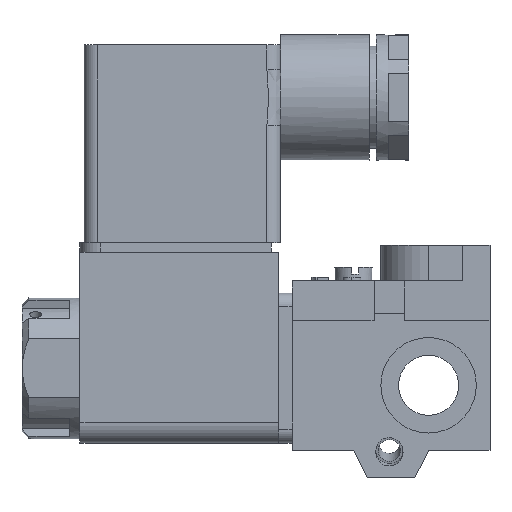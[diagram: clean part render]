
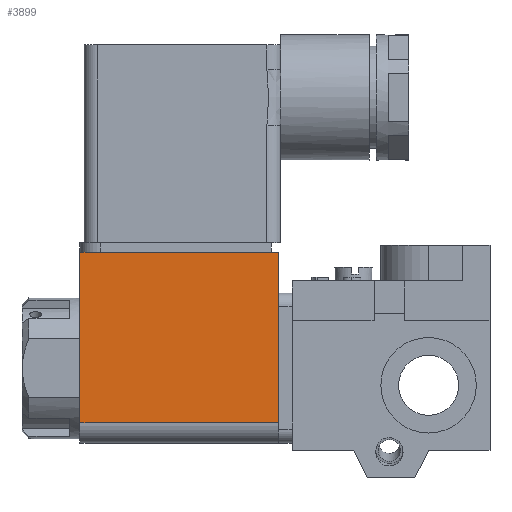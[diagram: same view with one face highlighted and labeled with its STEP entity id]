
A CAD part, left-side view. The second image highlights one B-rep face of the part: STEP entity #3899.
In plain terms, the highlighted planar face has unit normal (-1, 0, 0).
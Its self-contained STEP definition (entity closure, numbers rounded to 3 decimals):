
#150=PLANE('',#4199);
#495=FACE_OUTER_BOUND('',#768,.T.);
#768=EDGE_LOOP('',(#3241,#3242,#3243,#3244));
#1107=LINE('',#7300,#1446);
#1108=LINE('',#7302,#1447);
#1109=LINE('',#7304,#1448);
#1110=LINE('',#7305,#1449);
#1446=VECTOR('',#4984,25.);
#1447=VECTOR('',#4985,29.1);
#1448=VECTOR('',#4986,25.);
#1449=VECTOR('',#4987,29.1);
#1932=VERTEX_POINT('',#7298);
#1933=VERTEX_POINT('',#7299);
#1934=VERTEX_POINT('',#7301);
#1935=VERTEX_POINT('',#7303);
#2402=EDGE_CURVE('',#1932,#1933,#1107,.T.);
#2403=EDGE_CURVE('',#1933,#1934,#1108,.T.);
#2404=EDGE_CURVE('',#1935,#1934,#1109,.T.);
#2405=EDGE_CURVE('',#1932,#1935,#1110,.T.);
#3241=ORIENTED_EDGE('',*,*,#2402,.T.);
#3242=ORIENTED_EDGE('',*,*,#2403,.T.);
#3243=ORIENTED_EDGE('',*,*,#2404,.F.);
#3244=ORIENTED_EDGE('',*,*,#2405,.F.);
#3899=ADVANCED_FACE('',(#495),#150,.T.);
#4199=AXIS2_PLACEMENT_3D('',#7297,#4982,#4983);
#4982=DIRECTION('center_axis',(-1.,0.,0.));
#4983=DIRECTION('ref_axis',(0.,0.,1.));
#4984=DIRECTION('',(0.,-1.,0.));
#4985=DIRECTION('',(0.,0.,1.));
#4986=DIRECTION('',(0.,-1.,0.));
#4987=DIRECTION('',(0.,0.,1.));
#7297=CARTESIAN_POINT('Origin',(-8.678,-9.88,-29.1));
#7298=CARTESIAN_POINT('',(-8.678,18.12,-29.1));
#7299=CARTESIAN_POINT('',(-8.678,-6.88,-29.1));
#7300=CARTESIAN_POINT('',(-8.678,-9.88,-29.1));
#7301=CARTESIAN_POINT('',(-8.678,-6.88,0.));
#7302=CARTESIAN_POINT('',(-8.678,-6.88,-29.1));
#7303=CARTESIAN_POINT('',(-8.678,18.12,0.));
#7304=CARTESIAN_POINT('',(-8.678,-9.88,0.));
#7305=CARTESIAN_POINT('',(-8.678,18.12,-29.1));
